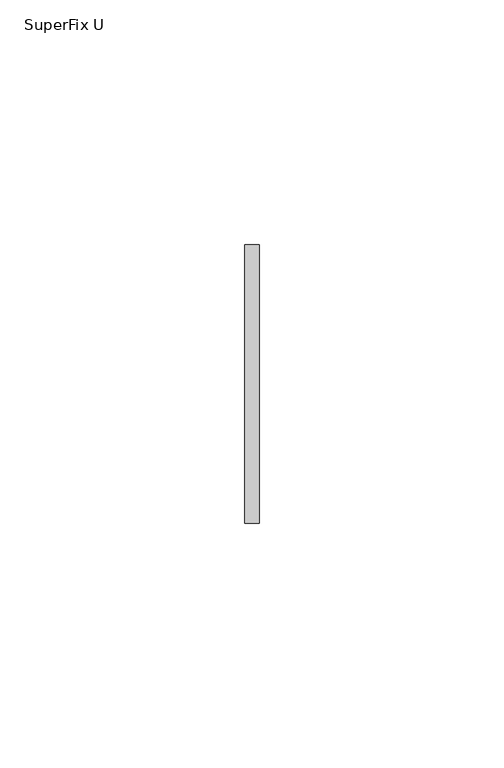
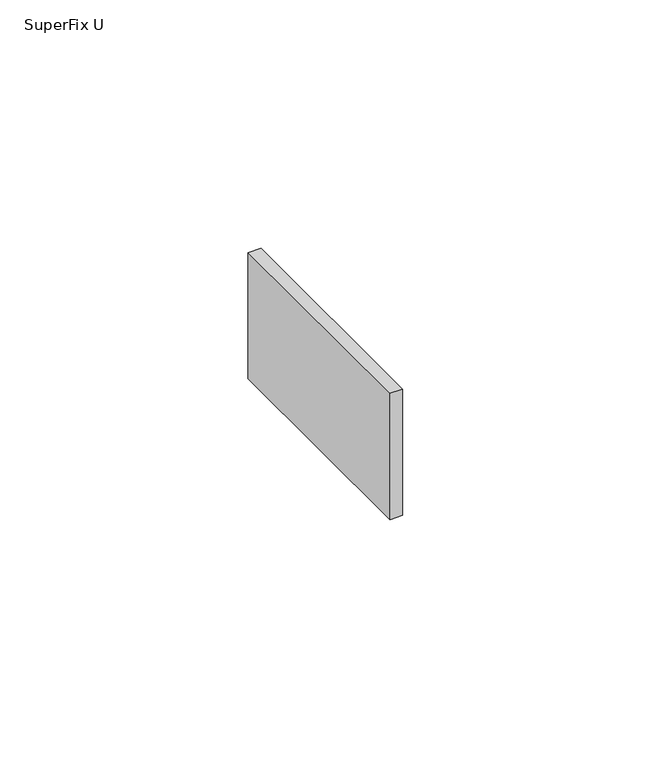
"""IFC4 building model written with IfcOpenShell, lengths in millimetres: valve geometry, Superfix U with bracket : SuperFix U."""

from ifc_helpers import new_model, si_unit, origin, origin_with_axes, place, context, project, spatial, polyline, outline, extrude, source, transform, mapped, element, save


def superfix_u_31397e19(model_context):
    return source(origin(), model_context, "Body", "SweptSolid", [
        extrude(outline(polyline([(753.0, -28.5), (750.0, -28.5), (750.0, 28.5), (753.0, 28.5), (753.0, -28.5)])), origin_with_axes(), (0.0, 0.0, 1.0), 31.0),
    ])


if __name__ == "__main__":
    model = new_model("IFC4")
    model_context = context("Model", 3, world=origin())
    ifc_project = project(units=[si_unit("LENGTHUNIT", "METRE", prefix="MILLI")], contexts=[model_context])
    site = spatial("IfcSite", under=ifc_project)
    building = spatial("IfcBuilding", under=site)
    placement = place(None, origin())
    superfix_u_shape = superfix_u_31397e19(model_context)
    element("IfcValve", 1, ObjectType="Superfix U with bracket : SuperFix U", at=placement, inside=building, context=model_context, shape_type="MappedRepresentation", body=[
        mapped(superfix_u_shape, transform((0.0, 0.0, 0.0), x_axis=(1.0, 0.0, 0.0), y_axis=(0.0, 1.0, 0.0), z_axis=(0.0, 0.0, 1.0))),
    ])
    save(model, "model.ifc")
